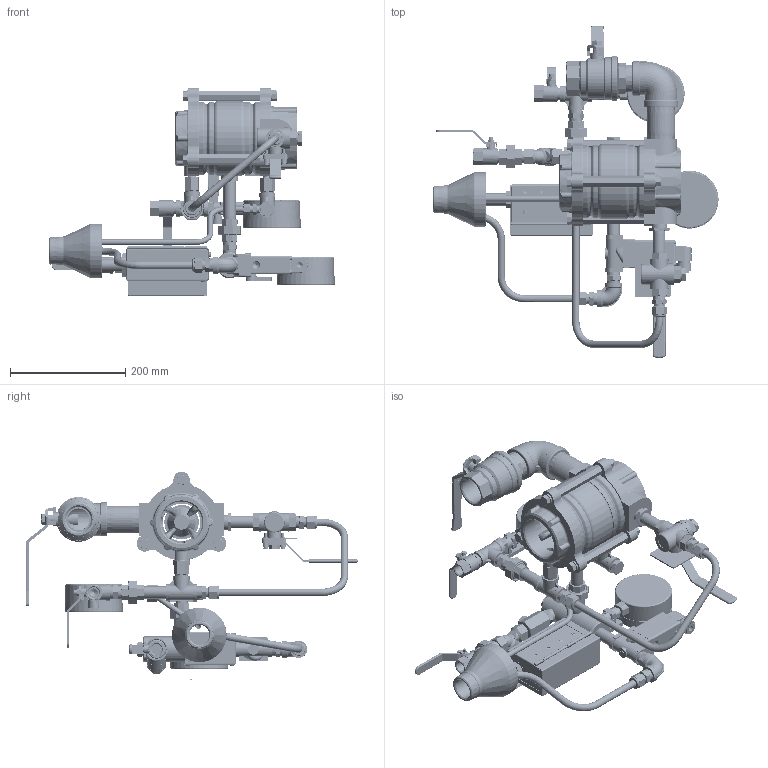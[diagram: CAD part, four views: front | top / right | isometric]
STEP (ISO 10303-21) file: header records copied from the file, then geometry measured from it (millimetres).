
FILE_DESCRIPTION(/* description */ (''),/* implementation_level */ '2;1');
FILE_NAME(/* name */ 'Z:\STANDARD SYSTEM\700DX-03C06\Step\711DX-03C06 FM UL Trim 2.5in.stp',/* time_stamp */ '2020-07-02T11:35:21+03:00',/* author */ ('alex'),/* organization */ (''),/* preprocessor_version */ 'ST-DEVELOPER v16.13',/* originating_system */ 'Autodesk Inventor 2018',/* authorisation */ '');
FILE_SCHEMA (('AUTOMOTIVE_DESIGN { 1 0 10303 214 3 1 1 }'));
Products named in the file (123): 711DX-03C06 FM UL Trim 2.5in; 5840; 711DX-2.5 CAT; 3141-cat; 4138-cat; 4430; 3107; 3107-A; 2033-4-cat; 2033-1-A-cat; Label-2033-1-A-cat; 4140; 5104; ASME B18.21.1 - 7/16  Regular. Carbon Steel; ANSI/ASME B18.2.1 - 7/16-14 UNC - 1.5; Solenoid-157 Assy; 157-61X; 157-61X Body; 151-7X; BODY BURKERT; BURKERT 330 COIL; BURKERT BUSH BUTTON; BURKERT CONDUIT; ISO 1207 - M 3 x 30; ISO 1207 - M 4 x 40; O'RING INCH; Q2611 - 1; Nipple 12x3,5 SS; 5375T; 31-08-01; BODY; COVER_31-08-01; 6244-1; 6245-1; 0-RING Ø12xØ3; DIN 472 - 18 x 1; BALL OD14mm; 5214_; 6246; 6318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
Assembly tree (170 placements, depth 5):
  711DX-03C06 FM UL Trim 2.5in
    Plug 12 SS  x3
    5840
    711DX-2.5 CAT
      3141-cat
        4138-cat
        4430
      3107
        3107-A
      2033-4-cat
        2033-1-A-cat
        Label-2033-1-A-cat
      4140  x2
      ANSI/ASME B18.2.1 - 7/16-14 UNC - 1.5  x6
      ASME B18.21.1 - 7/16  Regular. Carbon Steel  x6
      5104  x3
    Solenoid-157 Assy
      Nipple 12x2.5 SS
      157-61X
        157-61X Body
        151-7X
          BODY BURKERT
          BURKERT 330 COIL
          BURKERT BUSH BUTTON
          BURKERT CONDUIT
          ISO 1207 - M 3 x 30
          ISO 1207 - M 4 x 40  x4
    Q2611 - 1
    Nipple 12x3,5 SS
    5375T
    31-08-01
      BODY
      COVER_31-08-01
    6244-1
      6245-1
      0-RING Ø12xØ3
      DIN 472 - 18 x 1
      BALL OD14mm
      5214_
      6246
      6318
      0-RING2112
    Nipple 12 hex SS  x4
    Union 12 SS  x2
      Half Union 12M SS
      Half Union 12F SS
      Half Union F
    2072
      2073 rev01
        2073-1  rev01
        2073-2
        2073-3
        2073-4
          2073-4-1 rev01
          SP-M5-1  x4
        2073-5
        5841-2 with label
      Nipple 12x5 SS
      351-08-12
        351-08-12_BODY
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Bounding box: 496.15 x 577.31 x 362.82 mm (x, y, z)
Volume: 3525569.3 mm3; surface area: 1295286 mm2
Topology: 157 solids, 161 shells, 5143 faces, 12222 edges, 7577 vertices
Faces by surface type: plane 2448, cylinder 1030, cone 1009, bspline 464, torus 175, sphere 17
Full cylindrical faces by diameter (mm): 0.438 x1, 2 x2, 2.693 x1, 3 x6, 3.242 x10, 3.571 x4, 4 x16, 4.1 x2, 4.134 x8, 4.5 x2, 5 x17, 5.25 x2, 5.5 x5, 5.8 x4, 6 x2, 6.33 x4, 6.35 x2, 6.4 x4, 6.5 x2, 6.647 x1, 6.88 x2, 7 x9, 7.036 x3, 7.3 x1, 7.5 x2, 7.515 x4, 7.6 x2, 7.715 x4, 8 x5, 8.1 x1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
Entity records: 133490 total; most frequent: CARTESIAN_POINT 43272, ORIENTED_EDGE 17544, DIRECTION 17178, EDGE_CURVE 8754, AXIS2_PLACEMENT_3D 6393, VERTEX_POINT 5799, EDGE_LOOP 4977, LINE 4392
